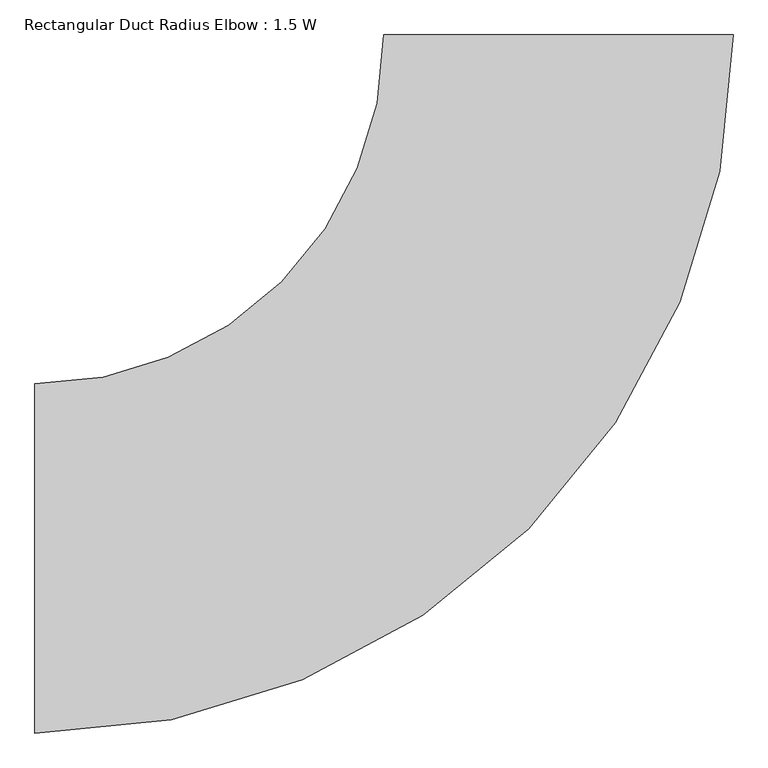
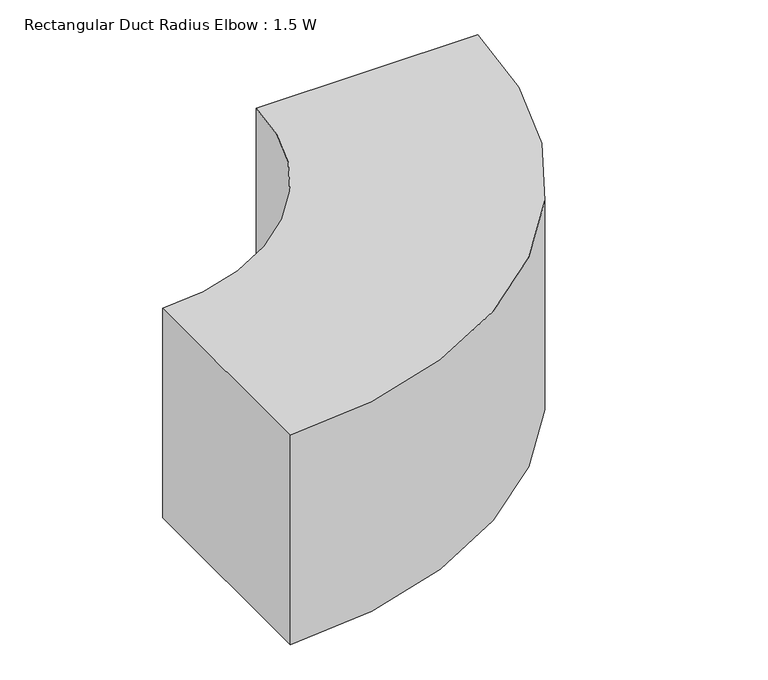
"""IFC4 building model written with IfcOpenShell, lengths in millimetres: duct fitting geometry, Rectangular Duct Radius Elbow : 1.5 W."""

from ifc_helpers import new_model, si_unit, point, frame, frame_2d, origin, place, context, project, spatial, polyline, circle_curve, trimmed, segment, composite_curve, outline, extrude, source, transform, mapped, element, save


def rectangular_duct_radius_elbow_1_5_w_59ea73c2(model_context):
    return source(origin(), model_context, "Body", "SweptSolid", [
        extrude(outline(composite_curve([segment(trimmed(circle_curve(frame_2d((-914.4, 914.4)), 1219.2), [point((304.8, 914.4))], [point((-914.4, -304.8))], False, "CARTESIAN"), True, "CONTINUOUS"), segment(polyline([(-914.4, -304.8), (-914.4, 304.8)]), True, "CONTINUOUS"), segment(trimmed(circle_curve(frame_2d((-914.4, 914.4)), 609.6), [point((-914.4, 304.8))], [point((-304.8, 914.4))], True, "CARTESIAN"), True, "CONTINUOUS"), segment(polyline([(-304.8, 914.4), (304.8, 914.4)]), True, "CONTINUOUS")], self_intersect=False)), frame((0.0, 0.0, -304.8), z_axis=(0.0, 0.0, 1.0), x_axis=(1.0, 0.0, 0.0)), (0.0, 0.0, 1.0), 609.6),
        extrude(outline(composite_curve([segment(trimmed(circle_curve(frame_2d((-914.4, 914.4)), 1219.2), [point((304.8, 914.4))], [point((-914.4, -304.8))], False, "CARTESIAN"), True, "CONTINUOUS"), segment(polyline([(-914.4, -304.8), (-914.4, 304.8)]), True, "CONTINUOUS"), segment(trimmed(circle_curve(frame_2d((-914.4, 914.4)), 609.6), [point((-914.4, 304.8))], [point((-304.8, 914.4))], True, "CARTESIAN"), True, "CONTINUOUS"), segment(polyline([(-304.8, 914.4), (304.8, 914.4)]), True, "CONTINUOUS")], self_intersect=False)), frame((0.0, 0.0, -304.8), z_axis=(0.0, 0.0, 1.0), x_axis=(1.0, 0.0, 0.0)), (0.0, 0.0, 1.0), 609.6),
        extrude(outline(composite_curve([segment(trimmed(circle_curve(frame_2d((-914.4, 914.4)), 1219.2), [point((304.8, 914.4))], [point((-914.4, -304.8))], False, "CARTESIAN"), True, "CONTINUOUS"), segment(polyline([(-914.4, -304.8), (-914.4, 304.8)]), True, "CONTINUOUS"), segment(trimmed(circle_curve(frame_2d((-914.4, 914.4)), 609.6), [point((-914.4, 304.8))], [point((-304.8, 914.4))], True, "CARTESIAN"), True, "CONTINUOUS"), segment(polyline([(-304.8, 914.4), (304.8, 914.4)]), True, "CONTINUOUS")], self_intersect=False)), frame((0.0, 0.0, -304.8), z_axis=(0.0, 0.0, 1.0), x_axis=(1.0, 0.0, 0.0)), (0.0, 0.0, 1.0), 609.6),
    ])


if __name__ == "__main__":
    model = new_model("IFC4")
    model_context = context("Model", 3, world=origin())
    ifc_project = project(units=[si_unit("LENGTHUNIT", "METRE", prefix="MILLI")], contexts=[model_context])
    site = spatial("IfcSite", under=ifc_project)
    building = spatial("IfcBuilding", under=site)
    placement = place(None, origin())
    rectangular_duct_radius_elbow_1_5_w_shape = rectangular_duct_radius_elbow_1_5_w_59ea73c2(model_context)
    element("IfcDuctFitting", 1, ObjectType="Rectangular Duct Radius Elbow : 1.5 W", at=placement, inside=building, context=model_context, shape_type="MappedRepresentation", body=[
        mapped(rectangular_duct_radius_elbow_1_5_w_shape, transform((0.0, 0.0, 0.0), x_axis=(1.0, 0.0, 0.0), y_axis=(0.0, 1.0, 0.0), z_axis=(0.0, 0.0, 1.0))),
    ])
    save(model, "model.ifc")
